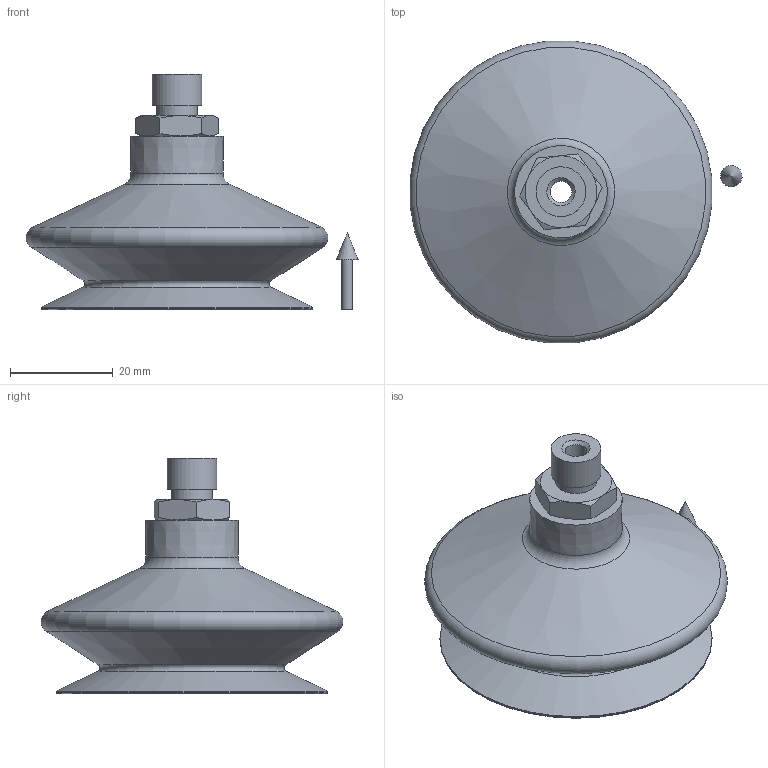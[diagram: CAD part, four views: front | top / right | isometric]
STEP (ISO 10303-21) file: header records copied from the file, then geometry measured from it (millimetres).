
FILE_DESCRIPTION(('STEP AP214'),'1');
FILE_NAME('KIT.08.31.D53.11.stp','2024-07-15T14:34:59',(' '),(' '),'Spatial InterOp 3D',' ',' ');
FILE_SCHEMA(('AUTOMOTIVE_DESIGN { 1 0 10303 214 1 1 1 1 }'));
Length unit declared in the file: millimetre
Products named in the file (3): KIT.08.31.D53.11; CA.08.09.043; CA.08.31.009
Assembly tree (2 placements, depth 2):
  KIT.08.31.D53.11
    CA.08.09.043
    CA.08.31.009
Bounding box: 64.65 x 58.8 x 45.8 mm (x, y, z)
Volume: 19191.3 mm3; surface area: 16140.7 mm2
Topology: 3 solids, 3 shells, 60 faces, 121 edges, 73 vertices
Faces by surface type: cone 24, plane 18, cylinder 11, torus 7
Full cylindrical faces by diameter (mm): 2.1 x1, 4.2 x2, 8 x2, 8.8 x1, 9.7 x1, 12 x1, 14.5 x1, 24.5 x1, 53 x1
Entity records: 2168 total; most frequent: CARTESIAN_POINT 436, DIRECTION 232, ORIENTED_EDGE 164, AXIS2_PLACEMENT_3D 113, EDGE_LOOP 100, EDGE_CURVE 82, FACE_OUTER_BOUND 78, VERTEX_POINT 65
